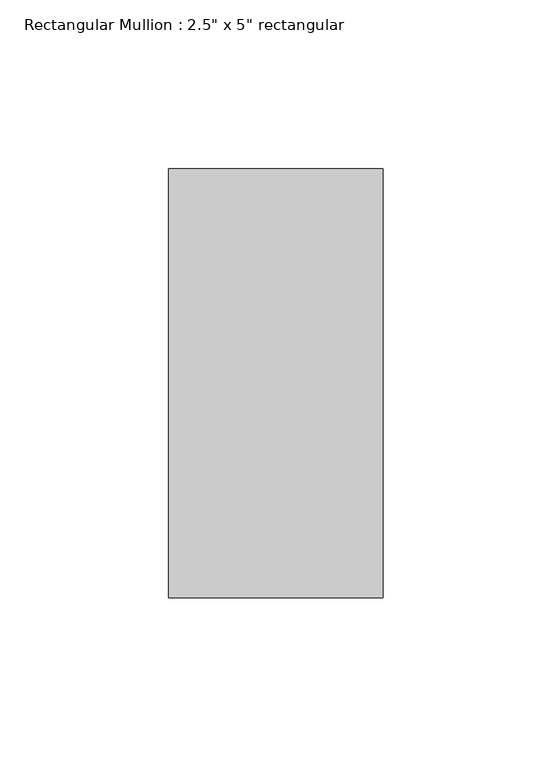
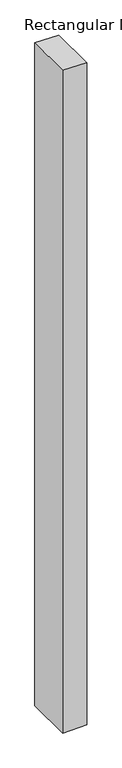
"""IFC4 building model written with IfcOpenShell, lengths in millimetres: member geometry."""

from ifc_helpers import new_model, si_unit, frame, origin, place, context, project, spatial, polyline, outline, extrude, source, transform, mapped, element, save


def member_fe170bf2(model_context):
    return source(origin(), model_context, "Body", "SweptSolid", [
        extrude(outline(polyline([(0.0, 0.0), (1.1163306, -63.5), (-1851.0794845, -63.5), (-1850.4429697, 0.0), (0.0, 0.0)])), frame((0.0, -63.5, 0.0), z_axis=(0.0, 1.0, 0.0), x_axis=(0.0, 0.0, 1.0)), (0.0, 0.0, 1.0), 127.0),
    ])


if __name__ == "__main__":
    model = new_model("IFC4")
    model_context = context("Model", 3, world=origin())
    ifc_project = project(units=[si_unit("LENGTHUNIT", "METRE", prefix="MILLI")], contexts=[model_context])
    site = spatial("IfcSite", under=ifc_project)
    building = spatial("IfcBuilding", under=site)
    placement = place(None, origin())
    member_shape = member_fe170bf2(model_context)
    element("IfcMember", 1, ObjectType="Rectangular Mullion : 2.5\" x 5\" rectangular", at=placement, inside=building, context=model_context, shape_type="MappedRepresentation", body=[
        mapped(member_shape, transform((0.0, 0.0, 0.0), x_axis=(1.0, 0.0, 0.0), y_axis=(0.0, 1.0, 0.0), z_axis=(0.0, 0.0, 1.0))),
    ])
    save(model, "model.ifc")
